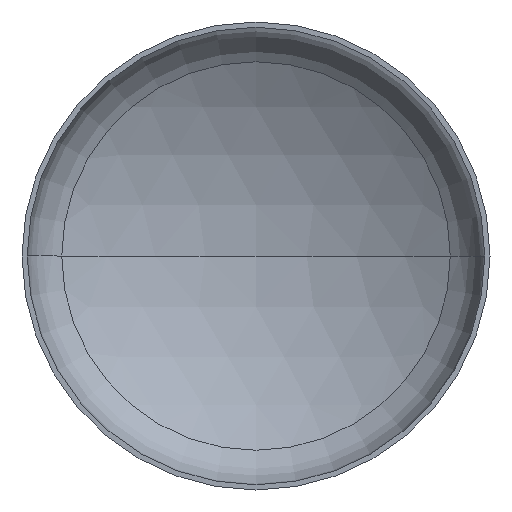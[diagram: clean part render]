
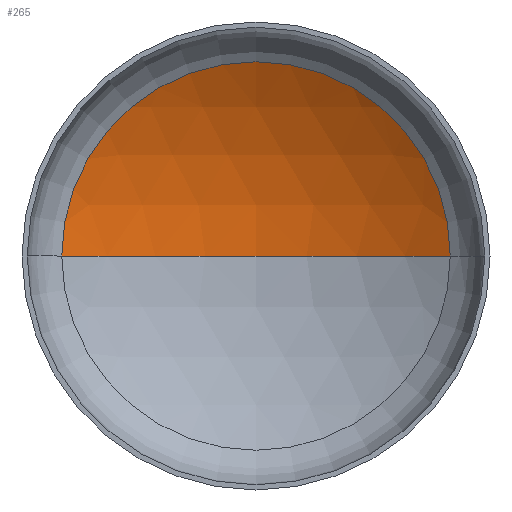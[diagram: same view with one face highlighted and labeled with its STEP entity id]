
A CAD part, front view. The second image highlights one B-rep face of the part: STEP entity #265.
In plain terms, the highlighted spherical face has radius 2560 mm.
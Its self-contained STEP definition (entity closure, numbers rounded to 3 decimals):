
#15 = CARTESIAN_POINT ( 'NONE',  ( 0., -1659.583, 0. ) ) ;
#21 = AXIS2_PLACEMENT_3D ( 'NONE', #121, #123, #96 ) ;
#38 = EDGE_LOOP ( 'NONE', ( #137, #70, #95 ) ) ;
#44 = AXIS2_PLACEMENT_3D ( 'NONE', #15, #154, #257 ) ;
#45 = AXIS2_PLACEMENT_3D ( 'NONE', #181, #182, #363 ) ;
#46 = CARTESIAN_POINT ( 'NONE',  ( -1328.232, 528.887, 0. ) ) ;
#49 = AXIS2_PLACEMENT_3D ( 'NONE', #223, #211, #205 ) ;
#70 = ORIENTED_EDGE ( 'NONE', *, *, #90, .T. ) ;
#89 = EDGE_CURVE ( 'NONE', #103, #159, #370, .T. ) ;
#90 = EDGE_CURVE ( 'NONE', #221, #103, #251, .T. ) ;
#93 = CIRCLE ( 'NONE', #21, 2560. ) ;
#95 = ORIENTED_EDGE ( 'NONE', *, *, #89, .T. ) ;
#96 = DIRECTION ( 'NONE',  ( 1., 0., 0. ) ) ;
#103 = VERTEX_POINT ( 'NONE', #107 ) ;
#107 = CARTESIAN_POINT ( 'NONE',  ( 1328.232, 528.887, 0. ) ) ;
#121 = CARTESIAN_POINT ( 'NONE',  ( 0., -1659.583, 0. ) ) ;
#123 = DIRECTION ( 'NONE',  ( 0., 0., 1. ) ) ;
#131 = FACE_OUTER_BOUND ( 'NONE', #38, .T. ) ;
#137 = ORIENTED_EDGE ( 'NONE', *, *, #356, .F. ) ;
#154 = DIRECTION ( 'NONE',  ( 0., 0., -1. ) ) ;
#159 = VERTEX_POINT ( 'NONE', #46 ) ;
#181 = CARTESIAN_POINT ( 'NONE',  ( 0., -1659.583, 0. ) ) ;
#182 = DIRECTION ( 'NONE',  ( 0., 0., -1. ) ) ;
#205 = DIRECTION ( 'NONE',  ( 1., 0., 0. ) ) ;
#211 = DIRECTION ( 'NONE',  ( 0., -1., 0. ) ) ;
#221 = VERTEX_POINT ( 'NONE', #260 ) ;
#223 = CARTESIAN_POINT ( 'NONE',  ( 0., 528.887, 0. ) ) ;
#251 = CIRCLE ( 'NONE', #45, 2560. ) ;
#257 = DIRECTION ( 'NONE',  ( -1., 0., 0. ) ) ;
#260 = CARTESIAN_POINT ( 'NONE',  ( 0., 900.417, 0. ) ) ;
#265 = ADVANCED_FACE ( 'NONE', ( #131 ), #305, .F. ) ;
#305 = SPHERICAL_SURFACE ( 'NONE', #44, 2560. ) ;
#356 = EDGE_CURVE ( 'NONE', #221, #159, #93, .T. ) ;
#363 = DIRECTION ( 'NONE',  ( -1., 0., 0. ) ) ;
#370 = CIRCLE ( 'NONE', #49, 1328.232 ) ;
